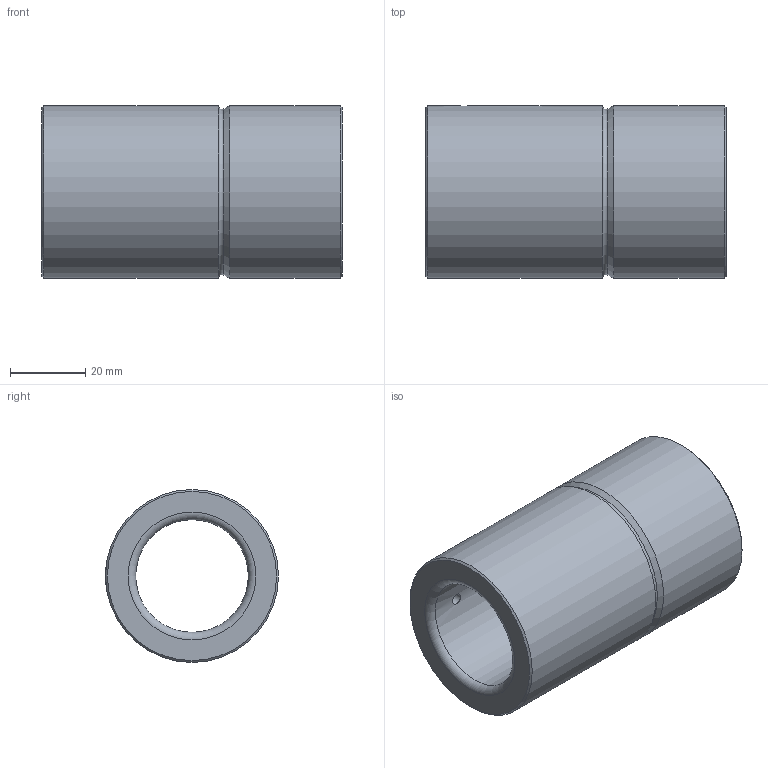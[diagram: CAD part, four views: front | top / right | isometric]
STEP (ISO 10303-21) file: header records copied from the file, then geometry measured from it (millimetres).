
FILE_DESCRIPTION( ( 'STEP AP214' ), '1' );
FILE_NAME( 'p:/temp/worker_27/temp/exporttempdir_1480_357_xtexL/format_1/WZ 4068 30 x 80.stp', '2020-11-21T19:59:48', ( 'License CC BY-ND 4.0' ), ( 'CADENAS' ), ' ', 'PARTsolutions', ' ' );
FILE_SCHEMA( ( 'AUTOMOTIVE_DESIGN { 1 0 10303 214 1 1 1 1 }' ) );
Length unit declared in the file: millimetre
Products named in the file (1): _WZ 4068 30 x 80
Bounding box: 80 x 46.04 x 46.04 mm (x, y, z)
Volume: 72599.6 mm3; surface area: 21261 mm2
Topology: 1 solids, 1 shells, 16 faces, 29 edges, 17 vertices
Faces by surface type: cylinder 6, cone 4, plane 4, torus 2
Full cylindrical faces by diameter (mm): 3 x1, 5 x1, 30 x1, 32 x1, 46.04 x2
Entity records: 594 total; most frequent: CARTESIAN_POINT 165, DIRECTION 64, EDGE_LOOP 34, ORIENTED_EDGE 34, AXIS2_PLACEMENT_3D 32, FACE_OUTER_BOUND 24, EDGE_CURVE 17, VERTEX_POINT 17
